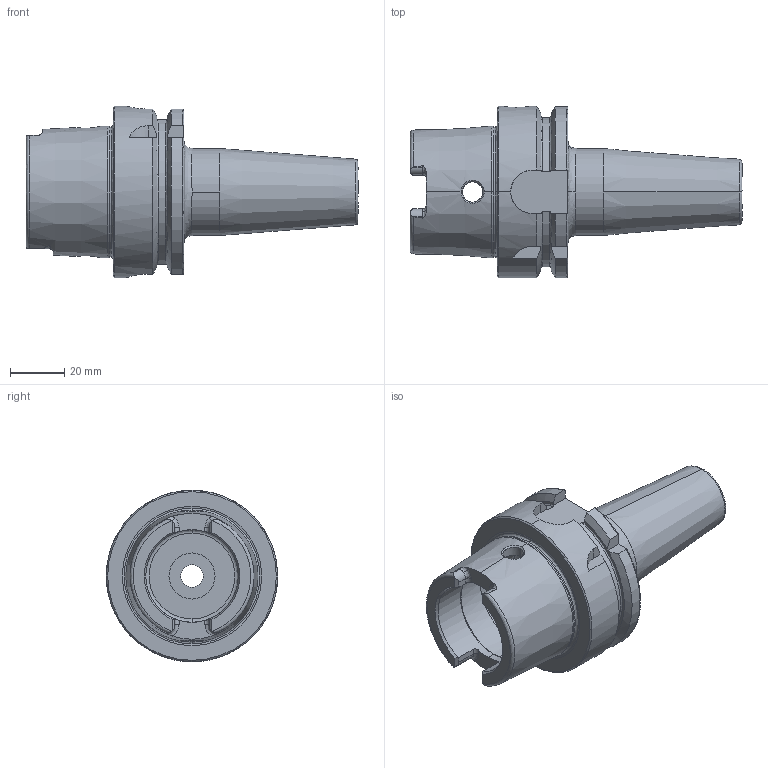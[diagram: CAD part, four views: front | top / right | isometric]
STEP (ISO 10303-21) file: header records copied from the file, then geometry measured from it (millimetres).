
FILE_DESCRIPTION (( 'STEP AP214' ), '1' );
FILE_NAME ('04-0486.STEP', '2021-08-03T19:03:21', ( '' ), ( '' ), 'SwSTEP 2.0', 'SolidWorks 2020', '' );
FILE_SCHEMA (( 'AUTOMOTIVE_DESIGN' ));
Length unit declared in the file: inch
Products named in the file (1): 04-0486
Bounding box: 122 x 63 x 63 mm (x, y, z)
Volume: 116565.5 mm3; surface area: 29938.7 mm2
Topology: 1 solids, 1 shells, 153 faces, 409 edges, 260 vertices
Faces by surface type: cylinder 49, bspline 41, plane 41, cone 22
Entity records: 8371 total; most frequent: CARTESIAN_POINT 4804, ORIENTED_EDGE 818, DIRECTION 656, EDGE_CURVE 409, AXIS2_PLACEMENT_3D 264, VERTEX_POINT 260, EDGE_LOOP 161, ADVANCED_FACE 153
